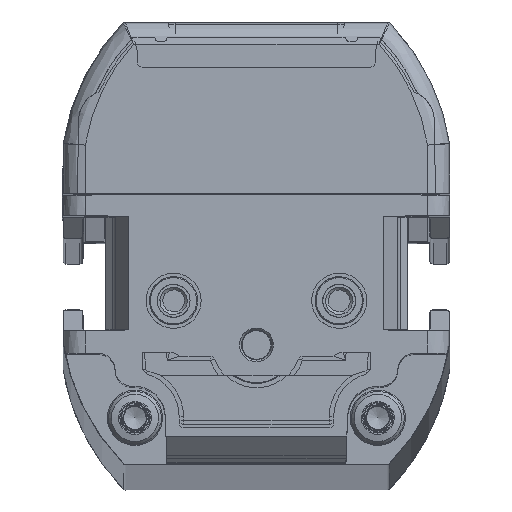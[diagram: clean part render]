
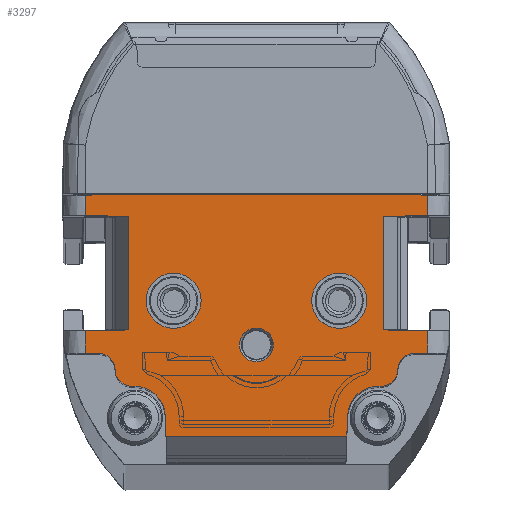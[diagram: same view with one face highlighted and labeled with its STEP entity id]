
A CAD part, top view. The second image highlights one B-rep face of the part: STEP entity #3297.
In plain terms, the highlighted planar face has unit normal (0, 0, 1).
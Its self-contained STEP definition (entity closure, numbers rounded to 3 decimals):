
#421=FACE_BOUND('',#5401,.T.);
#422=FACE_BOUND('',#5402,.T.);
#423=FACE_BOUND('',#5403,.T.);
#424=FACE_BOUND('',#5404,.T.);
#1077=CIRCLE('',#17087,2.5);
#1078=CIRCLE('',#17089,2.5);
#1079=CIRCLE('',#17091,1.55);
#1082=CIRCLE('',#17161,1.5);
#1083=CIRCLE('',#17162,1.5);
#1084=CIRCLE('',#17163,1.5);
#1085=CIRCLE('',#17164,1.5);
#1086=CIRCLE('',#17165,2.75);
#1087=CIRCLE('',#17166,2.75);
#3297=ADVANCED_FACE('',(#421,#422,#423,#424),#3844,.T.);
#3844=PLANE('',#17167);
#5401=EDGE_LOOP('',(#8778));
#5402=EDGE_LOOP('',(#8779));
#5403=EDGE_LOOP('',(#8780));
#5404=EDGE_LOOP('',(#8781,#8782,#8783,#8784,#8785,#8786,#8787,#8788,#8789,
#8790,#8791,#8792,#8793,#8794,#8795,#8796,#8797,#8798,#8799,#8800,#8801,
#8802,#8803,#8804,#8805,#8806));
#8778=ORIENTED_EDGE('',*,*,#13136,.T.);
#8779=ORIENTED_EDGE('',*,*,#13135,.F.);
#8780=ORIENTED_EDGE('',*,*,#13134,.F.);
#8781=ORIENTED_EDGE('',*,*,#13256,.F.);
#8782=ORIENTED_EDGE('',*,*,#13257,.T.);
#8783=ORIENTED_EDGE('',*,*,#13258,.T.);
#8784=ORIENTED_EDGE('',*,*,#13259,.T.);
#8785=ORIENTED_EDGE('',*,*,#13187,.T.);
#8786=ORIENTED_EDGE('',*,*,#13133,.T.);
#8787=ORIENTED_EDGE('',*,*,#13130,.T.);
#8788=ORIENTED_EDGE('',*,*,#13129,.T.);
#8789=ORIENTED_EDGE('',*,*,#13255,.T.);
#8790=ORIENTED_EDGE('',*,*,#13260,.F.);
#8791=ORIENTED_EDGE('',*,*,#13261,.F.);
#8792=ORIENTED_EDGE('',*,*,#13262,.F.);
#8793=ORIENTED_EDGE('',*,*,#13249,.T.);
#8794=ORIENTED_EDGE('',*,*,#13125,.F.);
#8795=ORIENTED_EDGE('',*,*,#13121,.T.);
#8796=ORIENTED_EDGE('',*,*,#13120,.F.);
#8797=ORIENTED_EDGE('',*,*,#13160,.T.);
#8798=ORIENTED_EDGE('',*,*,#13263,.F.);
#8799=ORIENTED_EDGE('',*,*,#13264,.T.);
#8800=ORIENTED_EDGE('',*,*,#13265,.T.);
#8801=ORIENTED_EDGE('',*,*,#13266,.F.);
#8802=ORIENTED_EDGE('',*,*,#13267,.F.);
#8803=ORIENTED_EDGE('',*,*,#13268,.F.);
#8804=ORIENTED_EDGE('',*,*,#13168,.T.);
#8805=ORIENTED_EDGE('',*,*,#13269,.F.);
#8806=ORIENTED_EDGE('',*,*,#13270,.F.);
#11161=VERTEX_POINT('',#29676);
#11162=VERTEX_POINT('',#29678);
#11163=VERTEX_POINT('',#29682);
#11164=VERTEX_POINT('',#29686);
#11166=VERTEX_POINT('',#29692);
#11168=VERTEX_POINT('',#29696);
#11169=VERTEX_POINT('',#29700);
#11170=VERTEX_POINT('',#29704);
#11171=VERTEX_POINT('',#29708);
#11172=VERTEX_POINT('',#29711);
#11173=VERTEX_POINT('',#29714);
#11190=VERTEX_POINT('',#29809);
#11195=VERTEX_POINT('',#29823);
#11196=VERTEX_POINT('',#29825);
#11209=VERTEX_POINT('',#29865);
#11243=VERTEX_POINT('',#30117);
#11247=VERTEX_POINT('',#30127);
#11248=VERTEX_POINT('',#30131);
#11249=VERTEX_POINT('',#30132);
#11250=VERTEX_POINT('',#30134);
#11251=VERTEX_POINT('',#30136);
#11252=VERTEX_POINT('',#30139);
#11253=VERTEX_POINT('',#30141);
#11254=VERTEX_POINT('',#30144);
#11255=VERTEX_POINT('',#30146);
#11256=VERTEX_POINT('',#30148);
#11257=VERTEX_POINT('',#30150);
#11258=VERTEX_POINT('',#30152);
#11259=VERTEX_POINT('',#30155);
#13120=EDGE_CURVE('',#11162,#11161,#14689,.T.);
#13121=EDGE_CURVE('',#11163,#11161,#14690,.T.);
#13125=EDGE_CURVE('',#11163,#11164,#14693,.T.);
#13129=EDGE_CURVE('',#11166,#11168,#14696,.T.);
#13130=EDGE_CURVE('',#11169,#11166,#14697,.T.);
#13133=EDGE_CURVE('',#11170,#11169,#14699,.T.);
#13134=EDGE_CURVE('',#11171,#11171,#1077,.T.);
#13135=EDGE_CURVE('',#11172,#11172,#1078,.T.);
#13136=EDGE_CURVE('',#11173,#11173,#1079,.T.);
#13160=EDGE_CURVE('',#11162,#11190,#14714,.T.);
#13168=EDGE_CURVE('',#11195,#11196,#14720,.T.);
#13187=EDGE_CURVE('',#11209,#11170,#14733,.T.);
#13249=EDGE_CURVE('',#11243,#11164,#14776,.T.);
#13255=EDGE_CURVE('',#11168,#11247,#14778,.T.);
#13256=EDGE_CURVE('',#11248,#11249,#14779,.T.);
#13257=EDGE_CURVE('',#11248,#11250,#1082,.T.);
#13258=EDGE_CURVE('',#11250,#11251,#1083,.T.);
#13259=EDGE_CURVE('',#11251,#11209,#14780,.T.);
#13260=EDGE_CURVE('',#11252,#11247,#14781,.T.);
#13261=EDGE_CURVE('',#11253,#11252,#14782,.T.);
#13262=EDGE_CURVE('',#11243,#11253,#14783,.T.);
#13263=EDGE_CURVE('',#11254,#11190,#14784,.T.);
#13264=EDGE_CURVE('',#11254,#11255,#1084,.T.);
#13265=EDGE_CURVE('',#11255,#11256,#1085,.T.);
#13266=EDGE_CURVE('',#11257,#11256,#14785,.T.);
#13267=EDGE_CURVE('',#11258,#11257,#1086,.T.);
#13268=EDGE_CURVE('',#11195,#11258,#14786,.T.);
#13269=EDGE_CURVE('',#11259,#11196,#14787,.T.);
#13270=EDGE_CURVE('',#11249,#11259,#1087,.T.);
#14689=LINE('',#29679,#15852);
#14690=LINE('',#29681,#15853);
#14693=LINE('',#29689,#15856);
#14696=LINE('',#29697,#15859);
#14697=LINE('',#29699,#15860);
#14699=LINE('',#29705,#15862);
#14714=LINE('',#29810,#15877);
#14720=LINE('',#29826,#15883);
#14733=LINE('',#29864,#15896);
#14776=LINE('',#30116,#15939);
#14778=LINE('',#30128,#15941);
#14779=LINE('',#30130,#15942);
#14780=LINE('',#30137,#15943);
#14781=LINE('',#30138,#15944);
#14782=LINE('',#30140,#15945);
#14783=LINE('',#30142,#15946);
#14784=LINE('',#30143,#15947);
#14785=LINE('',#30149,#15948);
#14786=LINE('',#30153,#15949);
#14787=LINE('',#30154,#15950);
#15852=VECTOR('',#20046,1.);
#15853=VECTOR('',#20049,1.);
#15856=VECTOR('',#20056,1.);
#15859=VECTOR('',#20063,1.);
#15860=VECTOR('',#20066,1.);
#15862=VECTOR('',#20072,1.);
#15877=VECTOR('',#20123,1.);
#15883=VECTOR('',#20137,1.);
#15896=VECTOR('',#20176,1.);
#15939=VECTOR('',#20287,1.);
#15941=VECTOR('',#20299,1.);
#15942=VECTOR('',#20302,1.);
#15943=VECTOR('',#20307,1.);
#15944=VECTOR('',#20308,1.);
#15945=VECTOR('',#20309,1.);
#15946=VECTOR('',#20310,1.);
#15947=VECTOR('',#20311,1.);
#15948=VECTOR('',#20316,1.);
#15949=VECTOR('',#20319,1.);
#15950=VECTOR('',#20320,1.);
#17087=AXIS2_PLACEMENT_3D('',#29707,#20075,#20076);
#17089=AXIS2_PLACEMENT_3D('',#29710,#20079,#20080);
#17091=AXIS2_PLACEMENT_3D('',#29713,#20083,#20084);
#17161=AXIS2_PLACEMENT_3D('',#30133,#20303,#20304);
#17162=AXIS2_PLACEMENT_3D('',#30135,#20305,#20306);
#17163=AXIS2_PLACEMENT_3D('',#30145,#20312,#20313);
#17164=AXIS2_PLACEMENT_3D('',#30147,#20314,#20315);
#17165=AXIS2_PLACEMENT_3D('',#30151,#20317,#20318);
#17166=AXIS2_PLACEMENT_3D('',#30156,#20321,#20322);
#17167=AXIS2_PLACEMENT_3D('',#30157,#20323,#20324);
#20046=DIRECTION('',(1.,0.017,0.));
#20049=DIRECTION('',(0.,-1.,0.));
#20056=DIRECTION('',(-1.,0.017,0.));
#20063=DIRECTION('',(1.,0.017,0.));
#20066=DIRECTION('',(0.,1.,0.));
#20072=DIRECTION('',(-1.,0.017,0.));
#20075=DIRECTION('',(0.,0.,1.));
#20076=DIRECTION('',(1.,0.,0.));
#20079=DIRECTION('',(0.,0.,1.));
#20080=DIRECTION('',(1.,0.,0.));
#20083=DIRECTION('',(0.,0.,-1.));
#20084=DIRECTION('',(1.,0.,0.));
#20123=DIRECTION('',(0.,-1.,0.));
#20137=DIRECTION('',(1.,0.,0.));
#20176=DIRECTION('',(0.,1.,0.));
#20287=DIRECTION('',(0.,-1.,0.));
#20299=DIRECTION('',(0.,1.,0.));
#20302=DIRECTION('',(-1.,0.,0.));
#20303=DIRECTION('',(0.,0.,1.));
#20304=DIRECTION('',(1.,0.,0.));
#20305=DIRECTION('',(0.,0.,-1.));
#20306=DIRECTION('',(1.,0.,0.));
#20307=DIRECTION('',(1.,0.,0.));
#20308=DIRECTION('',(1.,-0.017,0.));
#20309=DIRECTION('',(1.,0.,0.));
#20310=DIRECTION('',(1.,0.017,0.));
#20311=DIRECTION('',(-1.,0.,0.));
#20312=DIRECTION('',(0.,0.,-1.));
#20313=DIRECTION('',(1.,0.,0.));
#20314=DIRECTION('',(0.,0.,1.));
#20315=DIRECTION('',(1.,0.,0.));
#20316=DIRECTION('',(-1.,0.,0.));
#20317=DIRECTION('',(0.,0.,1.));
#20318=DIRECTION('',(1.,0.,0.));
#20319=DIRECTION('',(-0.035,0.999,0.));
#20320=DIRECTION('',(-0.035,-0.999,0.));
#20321=DIRECTION('',(0.,0.,1.));
#20322=DIRECTION('',(1.,0.,0.));
#20323=DIRECTION('',(0.,0.,1.));
#20324=DIRECTION('',(1.,0.,0.));
#29676=CARTESIAN_POINT('',(-11.55,12.107,1366.));
#29678=CARTESIAN_POINT('',(-15.5,12.038,1366.));
#29679=CARTESIAN_POINT('',(-17.709,11.999,1366.));
#29681=CARTESIAN_POINT('',(-11.55,0.,1366.));
#29682=CARTESIAN_POINT('',(-11.55,22.393,1366.));
#29686=CARTESIAN_POINT('',(-15.5,22.462,1366.));
#29689=CARTESIAN_POINT('',(-17.107,22.49,1366.));
#29692=CARTESIAN_POINT('',(11.55,22.393,1366.));
#29696=CARTESIAN_POINT('',(15.5,22.462,1366.));
#29697=CARTESIAN_POINT('',(-17.882,21.88,1366.));
#29699=CARTESIAN_POINT('',(11.55,0.,1366.));
#29700=CARTESIAN_POINT('',(11.55,12.107,1366.));
#29704=CARTESIAN_POINT('',(15.5,12.038,1366.));
#29705=CARTESIAN_POINT('',(-17.28,12.61,1366.));
#29707=CARTESIAN_POINT('',(-7.5,14.75,1366.));
#29708=CARTESIAN_POINT('',(-5.,14.75,1366.));
#29710=CARTESIAN_POINT('',(7.5,14.75,1366.));
#29711=CARTESIAN_POINT('',(10.,14.75,1366.));
#29713=CARTESIAN_POINT('',(0.,10.75,1366.));
#29714=CARTESIAN_POINT('',(1.55,10.75,1366.));
#29809=CARTESIAN_POINT('',(-15.5,10.,1366.));
#29810=CARTESIAN_POINT('',(-15.5,0.,1366.));
#29823=CARTESIAN_POINT('',(-8.189,2.5,1366.));
#29825=CARTESIAN_POINT('',(8.189,2.5,1366.));
#29826=CARTESIAN_POINT('',(-17.5,2.5,1366.));
#29864=CARTESIAN_POINT('',(15.5,0.,1366.));
#29865=CARTESIAN_POINT('',(15.5,10.,1366.));
#30116=CARTESIAN_POINT('',(-15.5,0.,1366.));
#30117=CARTESIAN_POINT('',(-15.5,24.317,1366.));
#30127=CARTESIAN_POINT('',(15.5,24.317,1366.));
#30128=CARTESIAN_POINT('',(15.5,0.,1366.));
#30130=CARTESIAN_POINT('',(23.25,7.,1366.));
#30131=CARTESIAN_POINT('',(11.3,7.,1366.));
#30132=CARTESIAN_POINT('',(11.002,7.,1366.));
#30133=CARTESIAN_POINT('',(11.3,8.5,1366.));
#30134=CARTESIAN_POINT('',(12.8,8.5,1366.));
#30135=CARTESIAN_POINT('',(14.3,8.5,1366.));
#30136=CARTESIAN_POINT('',(14.3,10.,1366.));
#30137=CARTESIAN_POINT('',(-17.5,10.,1366.));
#30138=CARTESIAN_POINT('',(-17.066,24.886,1366.));
#30139=CARTESIAN_POINT('',(13.025,24.36,1366.));
#30140=CARTESIAN_POINT('',(-17.5,24.36,1366.));
#30141=CARTESIAN_POINT('',(-13.025,24.36,1366.));
#30142=CARTESIAN_POINT('',(-17.924,24.275,1366.));
#30143=CARTESIAN_POINT('',(-17.5,10.,1366.));
#30144=CARTESIAN_POINT('',(-14.3,10.,1366.));
#30145=CARTESIAN_POINT('',(-14.3,8.5,1366.));
#30146=CARTESIAN_POINT('',(-12.8,8.5,1366.));
#30147=CARTESIAN_POINT('',(-11.3,8.5,1366.));
#30148=CARTESIAN_POINT('',(-11.3,7.,1366.));
#30149=CARTESIAN_POINT('',(-11.,7.,1366.));
#30150=CARTESIAN_POINT('',(-11.002,7.,1366.));
#30151=CARTESIAN_POINT('',(-11.002,4.25,1366.));
#30152=CARTESIAN_POINT('',(-8.253,4.346,1366.));
#30153=CARTESIAN_POINT('',(-8.25,4.25,1366.));
#30154=CARTESIAN_POINT('',(8.25,4.25,1366.));
#30155=CARTESIAN_POINT('',(8.253,4.346,1366.));
#30156=CARTESIAN_POINT('',(11.002,4.25,1366.));
#30157=CARTESIAN_POINT('',(-17.5,0.,1366.));
